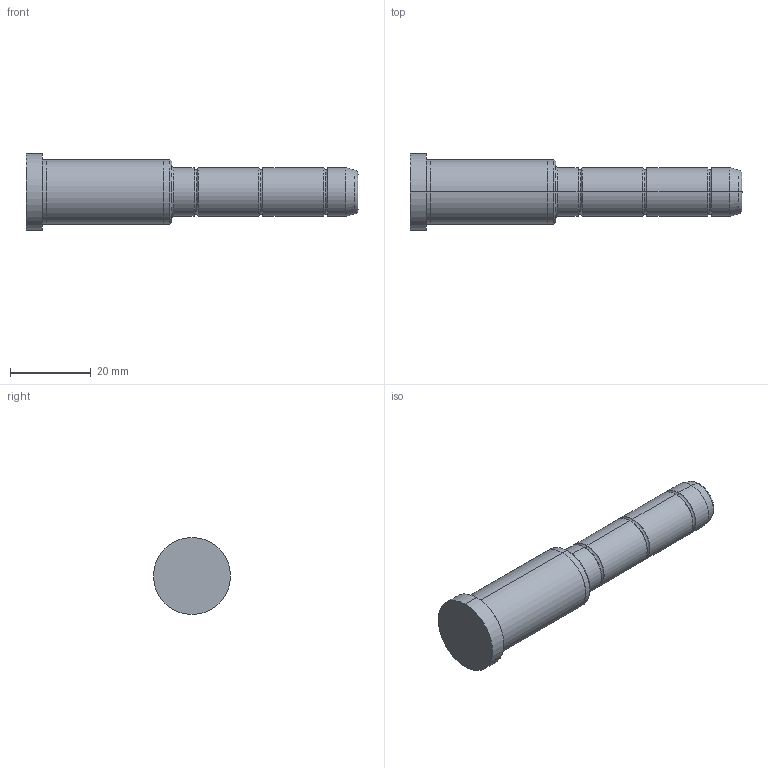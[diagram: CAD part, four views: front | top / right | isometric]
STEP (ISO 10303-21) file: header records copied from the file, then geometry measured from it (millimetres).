
FILE_DESCRIPTION( ( 'STEP AP203' ), '1' );
FILE_NAME( 'D:/Delta 3 D/D02/12/D02 - 12x36x46.step', '2003-01-04T12:27:20', ( ' ' ), ( ' ' ), 'XStep 1.0', ' ', ' ' );
FILE_SCHEMA( ( 'CONFIG_CONTROL_DESIGN' ) );
Length unit declared in the file: metre
Products named in the file (1): 1
Bounding box: 82 x 19 x 19 mm (x, y, z)
Volume: 12691.2 mm3; surface area: 4143.6 mm2
Topology: 1 solids, 1 shells, 42 faces, 82 edges, 46 vertices
Faces by surface type: bspline 22, revolution 20
Entity records: 1325 total; most frequent: CARTESIAN_POINT 517, ORIENTED_EDGE 164, DIRECTION 134, EDGE_CURVE 82, AXIS2_PLACEMENT_3D 47, EDGE_LOOP 46, VERTEX_POINT 46, CIRCLE 46
